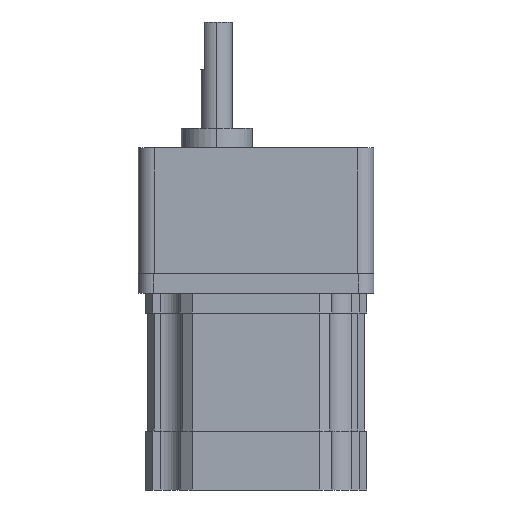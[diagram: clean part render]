
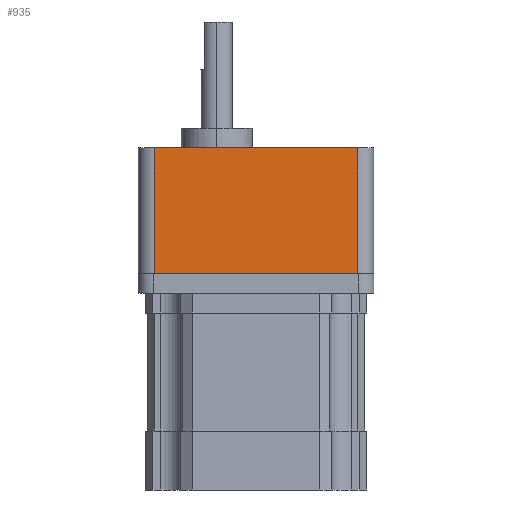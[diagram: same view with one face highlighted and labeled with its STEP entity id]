
A CAD part, left-side view. The second image highlights one B-rep face of the part: STEP entity #935.
In plain terms, the highlighted planar face has unit normal (-1, 0, 0).
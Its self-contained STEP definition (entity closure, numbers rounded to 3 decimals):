
#102 = VECTOR ( 'NONE', #2928, 1000. ) ;
#378 = VECTOR ( 'NONE', #634, 1000. ) ;
#435 = VERTEX_POINT ( 'NONE', #729 ) ;
#464 = CARTESIAN_POINT ( 'NONE',  ( -29.9, 25.9, 32. ) ) ;
#515 = CARTESIAN_POINT ( 'NONE',  ( -29.9, -25.9, 32. ) ) ;
#631 = DIRECTION ( 'NONE',  ( 0., 0., -1. ) ) ;
#634 = DIRECTION ( 'NONE',  ( 0., -1., 0. ) ) ;
#643 = CARTESIAN_POINT ( 'NONE',  ( -29.9, -25.9, 32. ) ) ;
#729 = CARTESIAN_POINT ( 'NONE',  ( -29.9, -25.9, 0. ) ) ;
#935 = ADVANCED_FACE ( 'NONE', ( #3721 ), #974, .F. ) ;
#974 = PLANE ( 'NONE',  #1269 ) ;
#988 = DIRECTION ( 'NONE',  ( 0., -1., 0. ) ) ;
#991 = CARTESIAN_POINT ( 'NONE',  ( -29.9, -25.9, 0. ) ) ;
#1028 = CARTESIAN_POINT ( 'NONE',  ( -29.9, -25.9, 32. ) ) ;
#1030 = DIRECTION ( 'NONE',  ( 1., 0., 0. ) ) ;
#1036 = DIRECTION ( 'NONE',  ( 0., 0., -1. ) ) ;
#1190 = ORIENTED_EDGE ( 'NONE', *, *, #2559, .T. ) ;
#1269 = AXIS2_PLACEMENT_3D ( 'NONE', #1028, #1030, #1036 ) ;
#1348 = ORIENTED_EDGE ( 'NONE', *, *, #3294, .F. ) ;
#1412 = LINE ( 'NONE', #515, #3308 ) ;
#1574 = ORIENTED_EDGE ( 'NONE', *, *, #2901, .F. ) ;
#1598 = LINE ( 'NONE', #3019, #102 ) ;
#1620 = ORIENTED_EDGE ( 'NONE', *, *, #3138, .T. ) ;
#1784 = VECTOR ( 'NONE', #988, 1000. ) ;
#1848 = CARTESIAN_POINT ( 'NONE',  ( -29.9, -25.9, 32. ) ) ;
#1894 = LINE ( 'NONE', #991, #1784 ) ;
#2196 = VERTEX_POINT ( 'NONE', #3996 ) ;
#2559 = EDGE_CURVE ( 'NONE', #3343, #2196, #1598, .T. ) ;
#2732 = VERTEX_POINT ( 'NONE', #1848 ) ;
#2901 = EDGE_CURVE ( 'NONE', #2732, #435, #1412, .T. ) ;
#2928 = DIRECTION ( 'NONE',  ( 0., 0., -1. ) ) ;
#3019 = CARTESIAN_POINT ( 'NONE',  ( -29.9, 25.9, 32. ) ) ;
#3138 = EDGE_CURVE ( 'NONE', #2196, #435, #1894, .T. ) ;
#3294 = EDGE_CURVE ( 'NONE', #3343, #2732, #3798, .T. ) ;
#3308 = VECTOR ( 'NONE', #631, 1000. ) ;
#3343 = VERTEX_POINT ( 'NONE', #464 ) ;
#3721 = FACE_OUTER_BOUND ( 'NONE', #3789, .T. ) ;
#3789 = EDGE_LOOP ( 'NONE', ( #1620, #1574, #1348, #1190 ) ) ;
#3798 = LINE ( 'NONE', #643, #378 ) ;
#3996 = CARTESIAN_POINT ( 'NONE',  ( -29.9, 25.9, 0. ) ) ;
